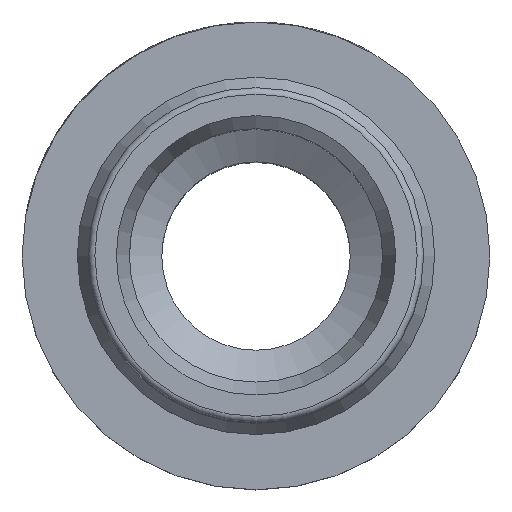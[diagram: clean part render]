
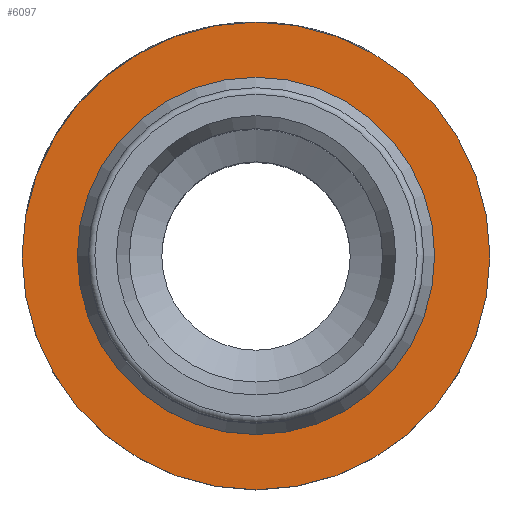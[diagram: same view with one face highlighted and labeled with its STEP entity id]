
A CAD part, top view. The second image highlights one B-rep face of the part: STEP entity #6097.
In plain terms, the highlighted planar face has unit normal (0, 0, 1).
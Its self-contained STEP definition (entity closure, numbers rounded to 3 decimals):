
#64=FACE_BOUND('',#1623,.T.);
#141=PLANE('',#6399);
#1264=FACE_OUTER_BOUND('',#1622,.T.);
#1622=EDGE_LOOP('',(#5453,#5454));
#1623=EDGE_LOOP('',(#5455,#5456));
#1765=CIRCLE('',#6313,18.);
#1766=CIRCLE('',#6314,18.);
#1823=CIRCLE('',#6397,13.25);
#1824=CIRCLE('',#6398,13.25);
#2785=VERTEX_POINT('',#13415);
#2786=VERTEX_POINT('',#13417);
#2839=VERTEX_POINT('',#13567);
#2840=VERTEX_POINT('',#13568);
#3666=EDGE_CURVE('',#2785,#2786,#1765,.T.);
#3667=EDGE_CURVE('',#2786,#2785,#1766,.T.);
#3737=EDGE_CURVE('',#2839,#2840,#1823,.T.);
#3738=EDGE_CURVE('',#2840,#2839,#1824,.T.);
#5453=ORIENTED_EDGE('',*,*,#3667,.F.);
#5454=ORIENTED_EDGE('',*,*,#3666,.F.);
#5455=ORIENTED_EDGE('',*,*,#3737,.T.);
#5456=ORIENTED_EDGE('',*,*,#3738,.T.);
#6097=ADVANCED_FACE('',(#1264,#64),#141,.T.);
#6313=AXIS2_PLACEMENT_3D('',#13418,#7130,#7131);
#6314=AXIS2_PLACEMENT_3D('',#13419,#7132,#7133);
#6397=AXIS2_PLACEMENT_3D('',#13569,#7311,#7312);
#6398=AXIS2_PLACEMENT_3D('',#13570,#7313,#7314);
#6399=AXIS2_PLACEMENT_3D('',#13572,#7316,#7317);
#7130=DIRECTION('center_axis',(0.,0.,-1.));
#7131=DIRECTION('ref_axis',(1.,0.,0.));
#7132=DIRECTION('center_axis',(0.,0.,-1.));
#7133=DIRECTION('ref_axis',(1.,0.,0.));
#7311=DIRECTION('center_axis',(0.,0.,-1.));
#7312=DIRECTION('ref_axis',(1.,0.,0.));
#7313=DIRECTION('center_axis',(0.,0.,-1.));
#7314=DIRECTION('ref_axis',(1.,0.,0.));
#7316=DIRECTION('center_axis',(0.,0.,1.));
#7317=DIRECTION('ref_axis',(1.,0.,0.));
#13415=CARTESIAN_POINT('',(0.,-18.,35.5));
#13417=CARTESIAN_POINT('',(0.,18.,35.5));
#13418=CARTESIAN_POINT('Origin',(0.,0.,35.5));
#13419=CARTESIAN_POINT('Origin',(0.,0.,35.5));
#13567=CARTESIAN_POINT('',(0.,13.25,35.5));
#13568=CARTESIAN_POINT('',(0.,-13.25,35.5));
#13569=CARTESIAN_POINT('Origin',(0.,0.,35.5));
#13570=CARTESIAN_POINT('Origin',(0.,0.,35.5));
#13572=CARTESIAN_POINT('Origin',(0.,18.,35.5));
